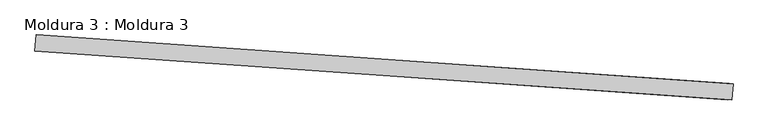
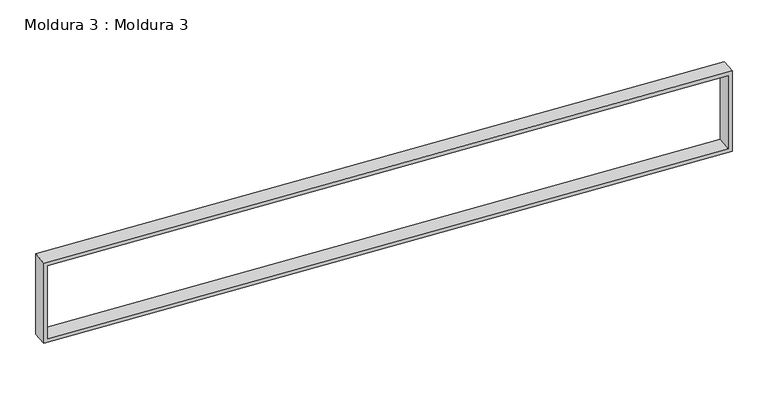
"""IFC4 building model written with IfcOpenShell, lengths in millimetres: proxy geometry, Moldura 3 : Moldura 3."""

import ifcopenshell
import ifcopenshell.guid

model = None  # the IFC model being written
_history = None  # IfcOwnerHistory: only IFC2X3 demands one
_inside = {}  # id of a spatial element -> (the spatial element, [elements in it])
_under = {}  # id of a project, library or spatial element -> (it, [spatial elements below it])
_declared = {}  # id of a project -> (the project, [libraries it declares])
_typed = {}  # id of a type object -> (the type object, [elements of that type])
_made_of = {}  # id of a material, layer set ... -> (it, [elements and type objects made of it])


def new_model(schema):
    """Start an empty IFC model of exactly this schema.

    Asked for "IFC4X3", IfcOpenShell would pick the latest addendum, in which some entities
    have other attributes; the version numbers below select the first issue.
    IFC2X3 requires an IfcOwnerHistory on every rooted entity: one is made here for all.
    """
    global model, _history
    if schema == "IFC4X3":
        model = ifcopenshell.file(schema_version=(4, 3, 0, 0))
    else:
        model = ifcopenshell.file(schema=schema)
    _inside.clear()
    _under.clear()
    _declared.clear()
    _typed.clear()
    _made_of.clear()
    _history = None
    if model.schema == "IFC2X3":
        org = make("IfcOrganization", Name="unknown")
        user = make(
            "IfcPersonAndOrganization",
            ThePerson=make("IfcPerson", FamilyName="unknown"),
            TheOrganization=org,
        )
        app = make(
            "IfcApplication",
            ApplicationDeveloper=org,
            Version="unknown",
            ApplicationFullName="unknown",
            ApplicationIdentifier="unknown",
        )
        _history = make(
            "IfcOwnerHistory",
            OwningUser=user,
            OwningApplication=app,
            ChangeAction="ADDED",
            CreationDate=0,
        )
    return model


def make(cls, **values):
    """One entity of the class cls with the attributes given. An attribute that is None is left unset."""
    return model.create_entity(
        cls, **{name: value for name, value in values.items() if value is not None}
    )


def rooted(cls, **values):
    """An entity with a GlobalId (a new one), such as an element, a storey or a relation."""
    return make(cls, GlobalId=ifcopenshell.guid.new(), OwnerHistory=_history, **values)


def si_unit(unit_type, name, prefix=None):
    """IfcSIUnit, for example si_unit("LENGTHUNIT", "METRE", prefix="MILLI")."""
    return make("IfcSIUnit", UnitType=unit_type, Prefix=prefix, Name=name)


def assignment(units):
    """IfcUnitAssignment: the units of a project."""
    return None if units is None else make("IfcUnitAssignment", Units=units)


def point(xyz):
    """IfcCartesianPoint."""
    return None if xyz is None else make("IfcCartesianPoint", Coordinates=xyz)


def direction(xyz):
    """IfcDirection."""
    return None if xyz is None else make("IfcDirection", DirectionRatios=xyz)


def frame(location, z_axis=None, x_axis=None):
    """IfcAxis2Placement3D, a coordinate frame: its origin and axes. An axis left out is left unset."""
    return make(
        "IfcAxis2Placement3D",
        Location=point(location),
        Axis=direction(z_axis),
        RefDirection=direction(x_axis),
    )


def origin():
    """The frame at (0, 0, 0) with its axes left unset."""
    return frame((0.0, 0.0, 0.0))


def place(relative_to, where):
    """IfcLocalPlacement: puts the frame where relative to a parent placement (None: the world)."""
    return make(
        "IfcLocalPlacement", PlacementRelTo=relative_to, RelativePlacement=where
    )


def context(
    kind, dimensions, precision=None, world=None, true_north=None, identifier=None
):
    """IfcGeometricRepresentationContext, for example the 3D "Model" context."""
    return make(
        "IfcGeometricRepresentationContext",
        ContextIdentifier=identifier,
        ContextType=kind,
        CoordinateSpaceDimension=dimensions,
        Precision=precision,
        WorldCoordinateSystem=world,
        TrueNorth=true_north,
    )


def project(units=None, contexts=None):
    """IfcProject with its units and contexts."""
    return rooted(
        "IfcProject",
        Name="project",
        RepresentationContexts=contexts,
        UnitsInContext=assignment(units),
    )


def spatial(cls, under=None, at=None, **own):
    """A site, building, storey or space (cls), placed at a placement, below another one or the project."""
    s = rooted(cls, ObjectPlacement=at, **own)
    if under is not None:
        _under.setdefault(under.id(), (under, []))[1].append(s)
    return s


def polyline(points):
    """IfcPolyline through the points."""
    return make("IfcPolyline", Points=[point(p) for p in points])


def outline(outer, holes=None, kind="AREA"):
    """IfcArbitraryClosedProfileDef: a profile drawn as a closed curve; with holes, ...WithVoids."""
    if holes is None:
        return make("IfcArbitraryClosedProfileDef", ProfileType=kind, OuterCurve=outer)
    return make(
        "IfcArbitraryProfileDefWithVoids",
        ProfileType=kind,
        OuterCurve=outer,
        InnerCurves=holes,
    )


def extrude(swept, where, along, depth):
    """IfcExtrudedAreaSolid: the profile swept, set in the frame where, extruded along a direction by depth."""
    return make(
        "IfcExtrudedAreaSolid",
        SweptArea=swept,
        Position=where,
        ExtrudedDirection=direction(along),
        Depth=depth,
    )


def shape(context_of_items, identifier, shape_type, items):
    """IfcShapeRepresentation: the items that make up one representation, for example the "Body"."""
    return make(
        "IfcShapeRepresentation",
        ContextOfItems=context_of_items,
        RepresentationIdentifier=identifier,
        RepresentationType=shape_type,
        Items=items,
    )


def source(mapping_origin, context_of_items, identifier, shape_type, items):
    """IfcRepresentationMap: a shape defined once, which mapped items show again and again."""
    return make(
        "IfcRepresentationMap",
        MappingOrigin=mapping_origin,
        MappedRepresentation=shape(context_of_items, identifier, shape_type, items),
    )


def transform(
    local_origin,
    x_axis=None,
    y_axis=None,
    z_axis=None,
    scale=None,
    scale2=None,
    scale3=None,
    uniform=True,
):
    """IfcCartesianTransformationOperator3D, or its non-uniform kind. x_axis, y_axis, z_axis: its Axis1, 2, 3."""
    if uniform:
        return make(
            "IfcCartesianTransformationOperator3D",
            Axis1=direction(x_axis),
            Axis2=direction(y_axis),
            LocalOrigin=point(local_origin),
            Scale=scale,
            Axis3=direction(z_axis),
        )
    return make(
        "IfcCartesianTransformationOperator3DnonUniform",
        Axis1=direction(x_axis),
        Axis2=direction(y_axis),
        LocalOrigin=point(local_origin),
        Scale=scale,
        Axis3=direction(z_axis),
        Scale2=scale2,
        Scale3=scale3,
    )


def mapped(mapping_source, mapping_target):
    """IfcMappedItem: shows the shape of a source again, moved by a transform."""
    return make(
        "IfcMappedItem", MappingSource=mapping_source, MappingTarget=mapping_target
    )


def made_of(thing, what):
    """Note that an element or type object is made of a material, layer set ...; save() writes the relation."""
    if what is not None:
        _made_of.setdefault(what.id(), (what, []))[1].append(thing)
    return thing


def element(
    cls,
    number,
    at=None,
    inside=None,
    cuts=None,
    type_object=None,
    material=None,
    context=None,
    identifier="Body",
    shape_type=None,
    held_by="IfcProductDefinitionShape",
    body=None,
    shapes=None,
    **own,
):
    """One element of the class cls, such as IfcWall. Its Tag is "e" and its number.

    at: its placement. inside: the storey or other place that contains it. cuts: it is an
    opening in that element (IfcRelVoidsElement). A single representation is given by context,
    identifier, shape_type and body (its items); several are given by shapes. held_by: the class
    of the entity that holds the representations. save() writes the other relations.
    """
    e = rooted(cls, Tag="e%d" % number, ObjectPlacement=at, **own)
    if body is not None:
        shapes = [shape(context, identifier, shape_type, body)]
    if shapes is not None:
        e.Representation = make(held_by, Representations=shapes)
    if inside is not None:
        _inside.setdefault(inside.id(), (inside, []))[1].append(e)
    if cuts is not None:
        rooted(
            "IfcRelVoidsElement", RelatingBuildingElement=cuts, RelatedOpeningElement=e
        )
    if type_object is not None:
        _typed.setdefault(type_object.id(), (type_object, []))[1].append(e)
    return made_of(e, material)


def aggregate(whole, parts):
    """IfcRelAggregates: a whole, such as a stair, and the parts it consists of."""
    return rooted("IfcRelAggregates", RelatingObject=whole, RelatedObjects=parts)


def save(model, path):
    """Write the relations noted so far, then the file.

    IfcRelAggregates (storeys below a building ...), IfcRelContainedInSpatialStructure (elements
    in a storey), IfcRelDefinesByType, IfcRelAssociatesMaterial and IfcRelDeclares: one each for
    every whole, place, type object, material and project.
    """
    for whole, parts in _under.values():
        aggregate(whole, parts)
    for where, things in _inside.values():
        rooted(
            "IfcRelContainedInSpatialStructure",
            RelatedElements=things,
            RelatingStructure=where,
        )
    for kind, things in _typed.values():
        rooted("IfcRelDefinesByType", RelatedObjects=things, RelatingType=kind)
    for what, things in _made_of.values():
        rooted("IfcRelAssociatesMaterial", RelatedObjects=things, RelatingMaterial=what)
    for by, libraries in _declared.values():
        rooted("IfcRelDeclares", RelatingContext=by, RelatedDefinitions=libraries)
    model.write(path)


def moldura_3_moldura_3_ffcf38f9(model_context):
    return source(origin(), model_context, "Body", "SweptSolid", [
        extrude(outline(polyline([(8550.0000001, -50.0), (-49.9999999, -50.0), (-49.9999999, 1050.0), (8550.0000001, 1050.0), (8550.0000001, -50.0)]), holes=[polyline([(8500.0, 1000.0), (0.0, 1000.0), (0.0, 0.0), (8500.0, 0.0), (8500.0, 1000.0)])]), frame((8706.2150091, -8923.8729951, 6300.0), z_axis=(0.07044601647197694, 0.9975155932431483, 0.0), x_axis=(0.9975155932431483, -0.07044601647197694, 0.0)), (0.0, 0.0, 1.0), 200.0),
    ])


if __name__ == "__main__":
    model = new_model("IFC4")
    model_context = context("Model", 3, world=origin())
    ifc_project = project(units=[si_unit("LENGTHUNIT", "METRE", prefix="MILLI")], contexts=[model_context])
    site = spatial("IfcSite", under=ifc_project)
    building = spatial("IfcBuilding", under=site)
    placement = place(None, origin())
    moldura_3_moldura_3_shape = moldura_3_moldura_3_ffcf38f9(model_context)
    element("IfcBuildingElementProxy", 1, Name="Moldura 3 : Moldura 3", ObjectType="Moldura 3 : Moldura 3", at=placement, inside=building, context=model_context, shape_type="MappedRepresentation", body=[
        mapped(moldura_3_moldura_3_shape, transform((0.0, 0.0, 0.0), x_axis=(1.0, 0.0, 0.0), y_axis=(0.0, 1.0, 0.0), z_axis=(0.0, 0.0, 1.0))),
    ])
    save(model, "model.ifc")
